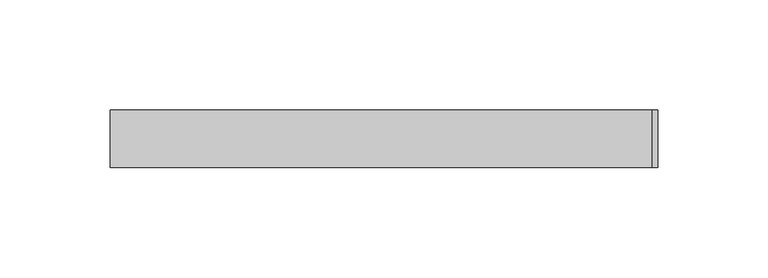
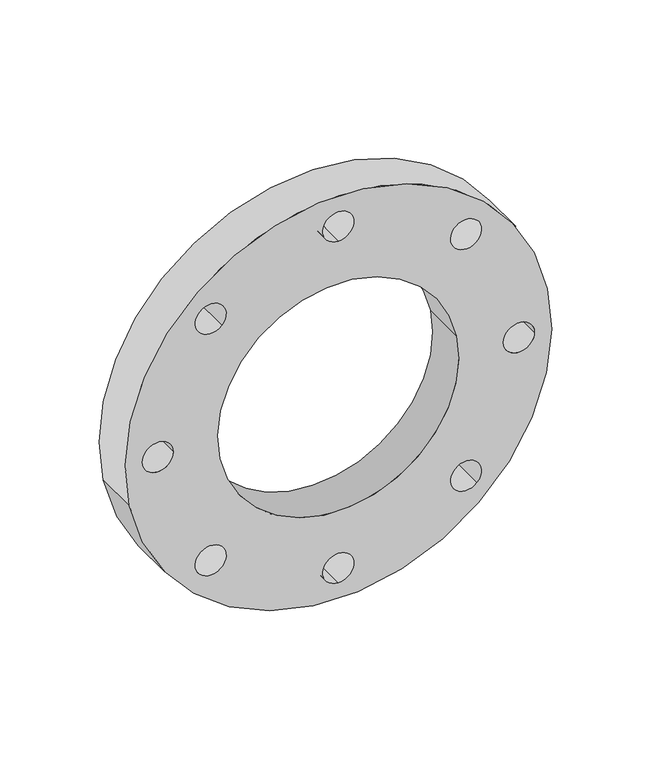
"""IFC4 building model written with IfcOpenShell, lengths in millimetres: pipe fitting geometry, 01051019 : Brides libres."""

from ifc_helpers import new_model, si_unit, point, frame, frame_2d, origin, origin_2d, place, context, project, spatial, circle_curve, trimmed, segment, composite_curve, outline, extrude, source, transform, mapped, element, save


def pipe_fitting_9edaaa12(model_context):
    return source(origin(), model_context, "Body", "SweptSolid", [
        extrude(outline(composite_curve([segment(trimmed(circle_curve(origin_2d(), 124.0), [point((-24.1911999, -121.6173748))], [point((24.1911999, 121.6173748))], False, "CARTESIAN"), True, "CONTINUOUS"), segment(trimmed(circle_curve(origin_2d(), 124.0), [point((24.1911999, 121.6173748))], [point((-24.1911999, -121.6173748))], False, "CARTESIAN"), True, "CONTINUOUS")], self_intersect=False), holes=[composite_curve([segment(trimmed(circle_curve(origin_2d(), 70.0), [point((-13.6563225, -68.6549696))], [point((13.6563225, 68.6549696))], True, "CARTESIAN"), True, "CONTINUOUS"), segment(trimmed(circle_curve(origin_2d(), 70.0), [point((13.6563225, 68.6549696))], [point((-13.6563225, -68.6549696))], True, "CARTESIAN"), True, "CONTINUOUS")], self_intersect=False), composite_curve([segment(trimmed(circle_curve(frame_2d((0.0, -105.0)), 9.0), [point((0.0, -96.0))], [point((0.0, -114.0))], True, "CARTESIAN"), True, "CONTINUOUS"), segment(trimmed(circle_curve(frame_2d((0.0, -105.0)), 9.0), [point((0.0, -114.0))], [point((0.0, -96.0))], True, "CARTESIAN"), True, "CONTINUOUS")], self_intersect=False), composite_curve([segment(trimmed(circle_curve(frame_2d((74.246212, -74.246212)), 9.0), [point((67.882251, -67.882251))], [point((80.6101731, -80.6101731))], True, "CARTESIAN"), True, "CONTINUOUS"), segment(trimmed(circle_curve(frame_2d((74.246212, -74.246212)), 9.0), [point((80.6101731, -80.6101731))], [point((67.882251, -67.882251))], True, "CARTESIAN"), True, "CONTINUOUS")], self_intersect=False), composite_curve([segment(trimmed(circle_curve(frame_2d((-74.246212, -74.246212)), 9.0), [point((-67.882251, -67.882251))], [point((-80.6101731, -80.6101731))], True, "CARTESIAN"), True, "CONTINUOUS"), segment(trimmed(circle_curve(frame_2d((-74.246212, -74.246212)), 9.0), [point((-80.6101731, -80.6101731))], [point((-67.882251, -67.882251))], True, "CARTESIAN"), True, "CONTINUOUS")], self_intersect=False), composite_curve([segment(trimmed(circle_curve(frame_2d((-105.0, 0.0)), 9.0), [point((-96.0, 0.0))], [point((-114.0, 0.0))], True, "CARTESIAN"), True, "CONTINUOUS"), segment(trimmed(circle_curve(frame_2d((-105.0, 0.0)), 9.0), [point((-114.0, 0.0))], [point((-96.0, 0.0))], True, "CARTESIAN"), True, "CONTINUOUS")], self_intersect=False), composite_curve([segment(trimmed(circle_curve(frame_2d((-74.246212, 74.246212)), 9.0), [point((-67.882251, 67.882251))], [point((-80.6101731, 80.6101731))], True, "CARTESIAN"), True, "CONTINUOUS"), segment(trimmed(circle_curve(frame_2d((-74.246212, 74.246212)), 9.0), [point((-80.6101731, 80.6101731))], [point((-67.882251, 67.882251))], True, "CARTESIAN"), True, "CONTINUOUS")], self_intersect=False), composite_curve([segment(trimmed(circle_curve(frame_2d((0.0, 105.0)), 9.0), [point((0.0, 96.0))], [point((0.0, 114.0))], True, "CARTESIAN"), True, "CONTINUOUS"), segment(trimmed(circle_curve(frame_2d((0.0, 105.0)), 9.0), [point((0.0, 114.0))], [point((0.0, 96.0))], True, "CARTESIAN"), True, "CONTINUOUS")], self_intersect=False), composite_curve([segment(trimmed(circle_curve(frame_2d((74.246212, 74.246212)), 9.0), [point((67.882251, 67.882251))], [point((80.6101731, 80.6101731))], True, "CARTESIAN"), True, "CONTINUOUS"), segment(trimmed(circle_curve(frame_2d((74.246212, 74.246212)), 9.0), [point((80.6101731, 80.6101731))], [point((67.882251, 67.882251))], True, "CARTESIAN"), True, "CONTINUOUS")], self_intersect=False), composite_curve([segment(trimmed(circle_curve(frame_2d((105.0, 0.0)), 9.0), [point((96.0, 0.0))], [point((114.0, 0.0))], True, "CARTESIAN"), True, "CONTINUOUS"), segment(trimmed(circle_curve(frame_2d((105.0, 0.0)), 9.0), [point((114.0, 0.0))], [point((96.0, 0.0))], True, "CARTESIAN"), True, "CONTINUOUS")], self_intersect=False)]), frame((0.0, -13.0, 0.0), z_axis=(0.0, 1.0, 0.0), x_axis=(0.0, 0.0, 1.0)), (0.0, 0.0, 1.0), 26.0),
    ])


if __name__ == "__main__":
    model = new_model("IFC4")
    model_context = context("Model", 3, world=origin())
    ifc_project = project(units=[si_unit("LENGTHUNIT", "METRE", prefix="MILLI")], contexts=[model_context])
    site = spatial("IfcSite", under=ifc_project)
    building = spatial("IfcBuilding", under=site)
    placement = place(None, origin())
    pipe_fitting_shape = pipe_fitting_9edaaa12(model_context)
    element("IfcPipeFitting", 1, ObjectType="01051019 : Brides libres", at=placement, inside=building, context=model_context, shape_type="MappedRepresentation", body=[
        mapped(pipe_fitting_shape, transform((0.0, 0.0, 0.0), x_axis=(1.0, 0.0, 0.0), y_axis=(0.0, 1.0, 0.0), z_axis=(0.0, 0.0, 1.0))),
    ])
    save(model, "model.ifc")
